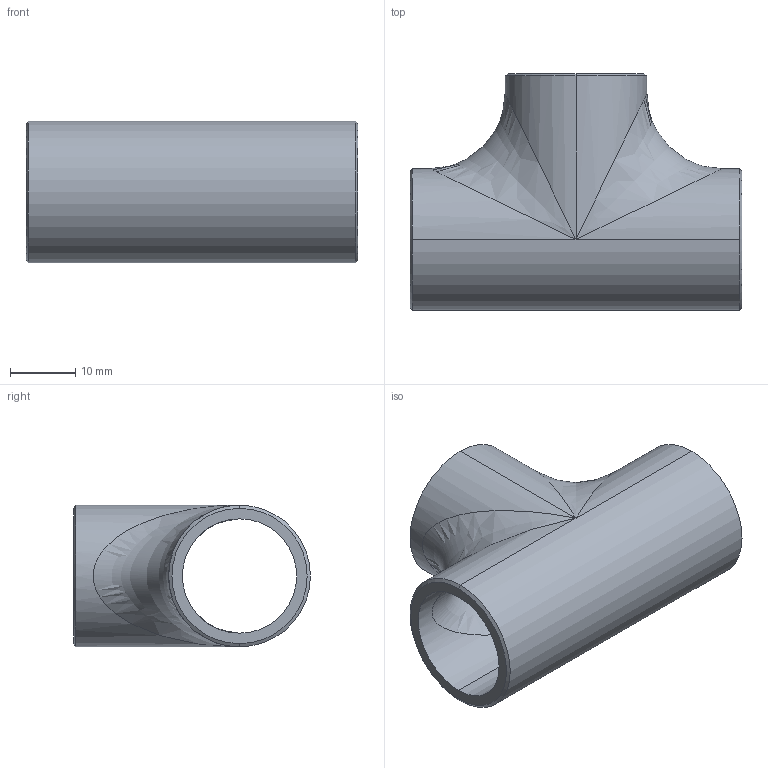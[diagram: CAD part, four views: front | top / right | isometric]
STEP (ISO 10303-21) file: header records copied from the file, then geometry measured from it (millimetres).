
FILE_DESCRIPTION (( 'STEP AP214' ), '1' );
FILE_NAME ('Equal-tee_Sch10S-15A.STEP', '2022-06-28T02:16:56', ( 'ASIS User' ), ( 'ASIS User' ), 'SwSTEP 2.0', 'SolidWorks 2022', '' );
FILE_SCHEMA (( 'AUTOMOTIVE_DESIGN' ));
Length unit declared in the file: millimetre
Products named in the file (1): Equal-tee_Sch10S-15A
Bounding box: 50.8 x 36.25 x 21.7 mm (x, y, z)
Volume: 8149 mm3; surface area: 8109.5 mm2
Topology: 1 solids, 1 shells, 23 faces, 52 edges, 22 vertices
Faces by surface type: cylinder 10, cone 6, bspline 4, plane 3
Entity records: 1158 total; most frequent: CARTESIAN_POINT 686, DIRECTION 94, ORIENTED_EDGE 88, EDGE_CURVE 44, AXIS2_PLACEMENT_3D 38, EDGE_LOOP 26, FACE_OUTER_BOUND 23, ADVANCED_FACE 23
